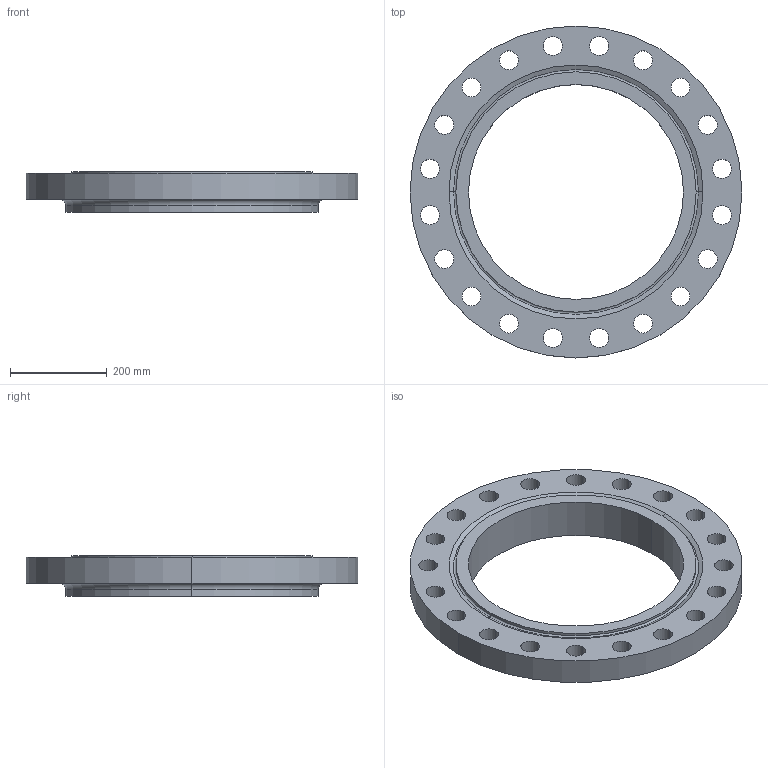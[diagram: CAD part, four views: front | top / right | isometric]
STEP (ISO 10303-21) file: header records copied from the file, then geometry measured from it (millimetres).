
FILE_DESCRIPTION (( 'STEP AP214' ), '1' );
FILE_NAME ('PN40 DN450 Type 13 - Type H Face.STEP', '2018-12-29T02:28:26', ( '' ), ( '' ), 'SwSTEP 2.0', 'SolidWorks 2019', '' );
FILE_SCHEMA (( 'AUTOMOTIVE_DESIGN' ));
Length unit declared in the file: millimetre
Products named in the file (1): PN40 DN450 Type 13 - Type H Face
Bounding box: 685 x 685 x 84 mm (x, y, z)
Volume: 11973955.5 mm3; surface area: 794001.7 mm2
Topology: 1 solids, 1 shells, 58 faces, 156 edges, 102 vertices
Faces by surface type: cylinder 48, torus 4, plane 4, cone 2
Entity records: 1996 total; most frequent: DIRECTION 380, CARTESIAN_POINT 317, ORIENTED_EDGE 312, AXIS2_PLACEMENT_3D 165, EDGE_CURVE 156, CIRCLE 106, EDGE_LOOP 102, VERTEX_POINT 102
